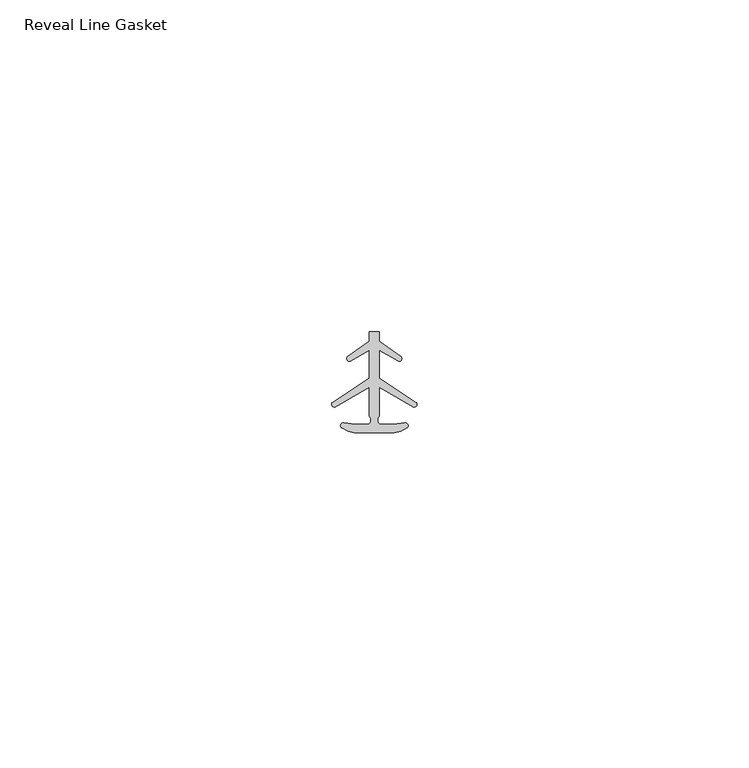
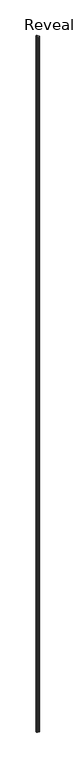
"""IFC4 building model written with IfcOpenShell, lengths in millimetres: proxy geometry, Accessories-Teknion-FHGR-AI_Healthcare-Reveal_Line_Gasket-R2021 : Reveal Line Gasket."""

from ifc_helpers import new_model, si_unit, point, frame, frame_2d, origin, place, context, project, spatial, polyline, circle_curve, trimmed, segment, composite_curve, outline, extrude, source, transform, mapped, element, save


def reveal_line_gasket_c3e78ba8(model_context):
    return source(origin(), model_context, "Body", "SweptSolid", [
        extrude(outline(composite_curve([segment(polyline([(2.999107, -7.6326998), (-3.000893, -7.6326998), (-3.9563857, -7.4091917), (-4.8893614, -6.8813059)]), True, "CONTINUOUS"), segment(trimmed(circle_curve(frame_2d((-4.6873723, -6.5243141)), 0.4101739), [point((-4.8893614, -6.8813059))], [point((-4.5950277, -6.1246704))], False, "CARTESIAN"), True, "CONTINUOUS"), segment(polyline([(-4.5950277, -6.1246704), (-2.8988015, -6.3626997), (-0.8663457, -6.3626997)]), True, "CONTINUOUS"), segment(trimmed(circle_curve(frame_2d((-1.2828188, -5.6959605)), 0.786124), [point((-0.8663457, -6.3626997))], [point((-0.778768, -5.0926996))], True, "CARTESIAN"), True, "CONTINUOUS"), segment(polyline([(-0.778768, -5.0926996), (-0.778768, -0.7492996), (-5.9404224, -3.7293824)]), True, "CONTINUOUS"), segment(trimmed(circle_curve(frame_2d((-6.0058691, -3.3132479)), 0.4212495), [point((-5.9404224, -3.7293824))], [point((-6.3335288, -3.0485022))], False, "CARTESIAN"), True, "CONTINUOUS"), segment(polyline([(-6.3335288, -3.0485022), (-0.778768, 0.5742594), (-0.778768, 4.8262978), (-3.6544226, 3.1660374)]), True, "CONTINUOUS"), segment(trimmed(circle_curve(frame_2d((-3.7127785, 3.5978728)), 0.4357605), [point((-3.6544226, 3.1660374))], [point((-4.0575811, 3.864328))], False, "CARTESIAN"), True, "CONTINUOUS"), segment(polyline([(-4.0575811, 3.864328), (-0.778768, 6.1944059), (-0.778768, 7.6326998), (0.7769821, 7.6326998), (0.7769821, 6.1944059), (4.0557951, 3.864328)]), True, "CONTINUOUS"), segment(trimmed(circle_curve(frame_2d((3.7109925, 3.5978728)), 0.4357605), [point((4.0557951, 3.864328))], [point((3.6526367, 3.1660374))], False, "CARTESIAN"), True, "CONTINUOUS"), segment(polyline([(3.6526367, 3.1660374), (0.7769821, 4.8262978), (0.7769821, 0.5742594), (6.3317429, -3.0485022)]), True, "CONTINUOUS"), segment(trimmed(circle_curve(frame_2d((6.0040832, -3.3132479)), 0.4212495), [point((6.3317429, -3.0485022))], [point((5.9386365, -3.7293824))], False, "CARTESIAN"), True, "CONTINUOUS"), segment(polyline([(5.9386365, -3.7293824), (0.7769821, -0.7492996), (0.7769821, -5.0926996)]), True, "CONTINUOUS"), segment(trimmed(circle_curve(frame_2d((1.2810328, -5.6959605)), 0.786124), [point((0.7769821, -5.0926996))], [point((0.8645598, -6.3626997))], True, "CARTESIAN"), True, "CONTINUOUS"), segment(polyline([(0.8645598, -6.3626997), (2.8970156, -6.3626997), (4.5932418, -6.1246704)]), True, "CONTINUOUS"), segment(trimmed(circle_curve(frame_2d((4.6855864, -6.5243141)), 0.4101739), [point((4.5932418, -6.1246704))], [point((4.8875754, -6.8813059))], False, "CARTESIAN"), True, "CONTINUOUS"), segment(polyline([(4.8875754, -6.8813059), (3.9545998, -7.4091917), (2.999107, -7.6326998)]), True, "CONTINUOUS")], self_intersect=False)), frame((0.0, 0.0, 84.836), z_axis=(0.0, 0.0, 1.0), x_axis=(1.0, 0.0, 0.0)), (0.0, 0.0, 1.0), 2955.3413731),
    ])


if __name__ == "__main__":
    model = new_model("IFC4")
    model_context = context("Model", 3, world=origin())
    ifc_project = project(units=[si_unit("LENGTHUNIT", "METRE", prefix="MILLI")], contexts=[model_context])
    site = spatial("IfcSite", under=ifc_project)
    building = spatial("IfcBuilding", under=site)
    placement = place(None, origin())
    reveal_line_gasket_shape = reveal_line_gasket_c3e78ba8(model_context)
    element("IfcBuildingElementProxy", 1, Name="Accessories-Teknion-FHGR-AI_Healthcare-Reveal_Line_Gasket-R2021 : Reveal Line Gasket", ObjectType="Accessories-Teknion-FHGR-AI_Healthcare-Reveal_Line_Gasket-R2021 : Reveal Line Gasket", at=placement, inside=building, context=model_context, shape_type="MappedRepresentation", body=[
        mapped(reveal_line_gasket_shape, transform((0.0, 0.0, 0.0), x_axis=(1.0, 0.0, 0.0), y_axis=(0.0, 1.0, 0.0), z_axis=(0.0, 0.0, 1.0))),
    ])
    save(model, "model.ifc")
